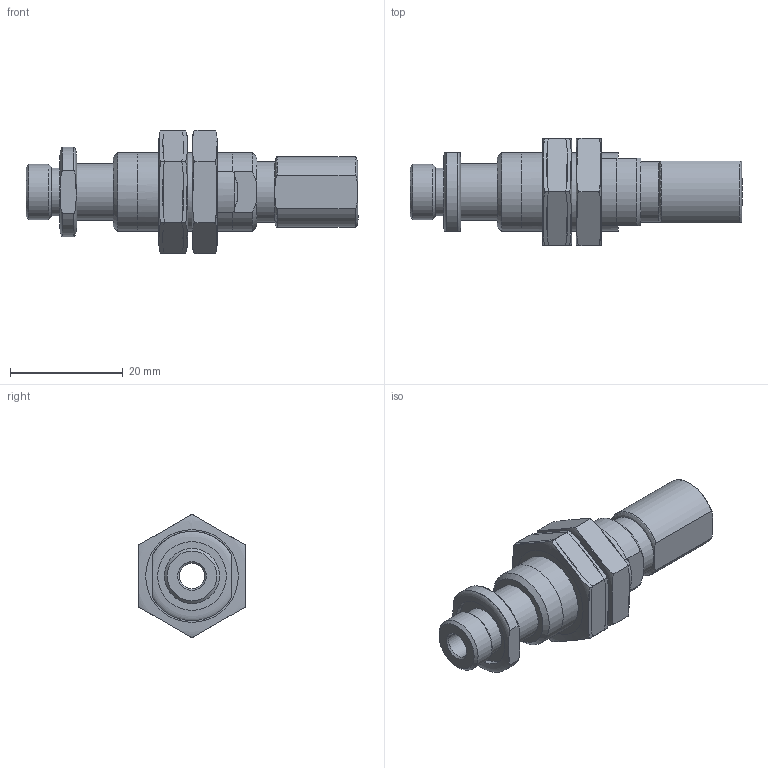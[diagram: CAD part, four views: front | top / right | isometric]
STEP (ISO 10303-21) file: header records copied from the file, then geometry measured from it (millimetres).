
FILE_DESCRIPTION( ( 'Unknown' ), '1' );
FILE_NAME( 'C:/Documents and Settings/Owner/官帕 拳搁/LEVEL SPRING HOMEPAGE/L1810T/L1810T.stp', 'Unknown', ( 'Unknown' ), ( 'Unknown' ), 'PSStep 10.0', 'Unknown', ' ' );
FILE_SCHEMA( ( 'AUTOMOTIVE_DESIGN { 1 0 10303 214 1 1 1 1 }' ) );
Length unit declared in the file: millimetre
Products named in the file (5): Assem1; SHAFT; HOUNSING; UPPER NUT; NUT
Bounding box: 58.99 x 19 x 21.94 mm (x, y, z)
Surface area: 13736.9 mm2 (no closed solid volume)
Topology: 0 solids, 139 shells, 139 faces, 517 edges, 454 vertices
Faces by surface type: plane 64, cylinder 41, cone 20, revolution 14
Full cylindrical faces by diameter (mm): 4.5 x2, 6.8 x2, 8 x8, 8.5 x2, 8.8 x2, 9.8 x4, 10 x4, 10.8 x2, 12.2 x2, 14 x5
Entity records: 4118 total; most frequent: CARTESIAN_POINT 1758, DIRECTION 394, ORIENTED_EDGE 200, EDGE_CURVE 200, VERTEX_POINT 200, AXIS2_PLACEMENT_3D 172, FACE_BOUND 108, EDGE_LOOP 108
